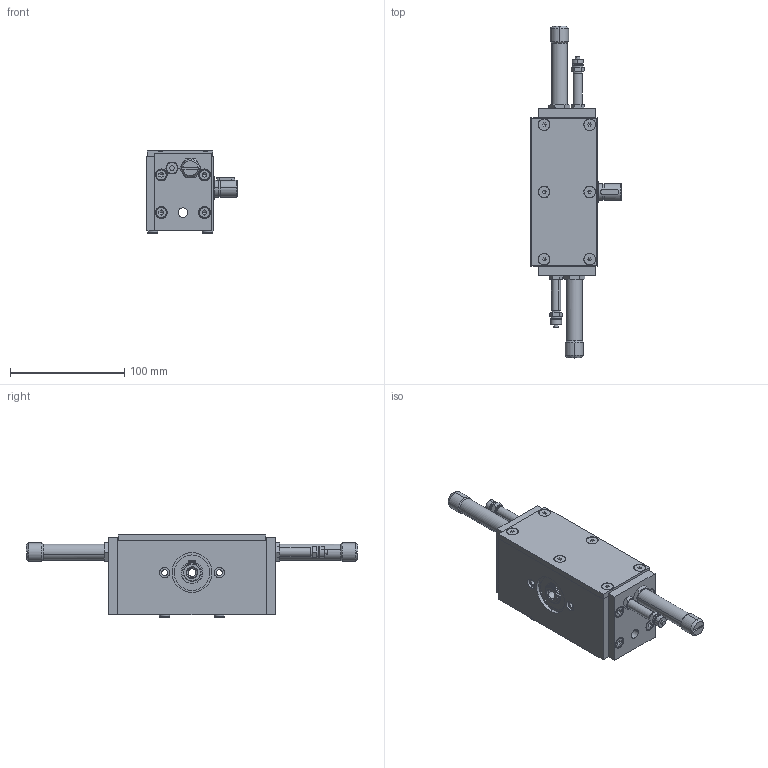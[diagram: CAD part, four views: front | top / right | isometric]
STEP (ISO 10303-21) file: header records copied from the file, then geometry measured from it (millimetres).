
FILE_DESCRIPTION((''),'2;1');
FILE_NAME('V:\CAD\Inventor-Stp\Drehantriebe\DA 25\2000033\2000033.stp','2006-03-15T15:55:55',('is'),(''),'Autodesk Inventor 8','Autodesk Inventor 8','');
FILE_SCHEMA(('AUTOMOTIVE_DESIGN { 1 0 10303 214 1 1 1 1 }'));
Length unit declared in the file: millimetre
Products named in the file (3): 2000033; 2000033-a; 2000033-b
Assembly tree (2 placements, depth 2):
  2000033
    2000033-a
    2000033-b
Bounding box: 79 x 291 x 71.9 mm (x, y, z)
Volume: 452330.5 mm3; surface area: 113645.9 mm2
Topology: 2 solids, 48 shells, 2489 faces, 6766 edges, 4402 vertices
Faces by surface type: plane 1627, bspline 327, cylinder 283, cone 228, torus 24
Entity records: 83229 total; most frequent: CARTESIAN_POINT 21251, ORIENTED_EDGE 13412, DIRECTION 12126, EDGE_CURVE 6706, VECTOR 5054, LINE 5054, VERTEX_POINT 4402, AXIS2_PLACEMENT_3D 3536
